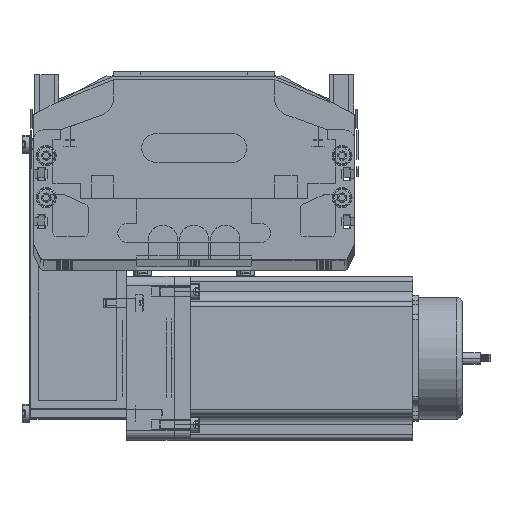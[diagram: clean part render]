
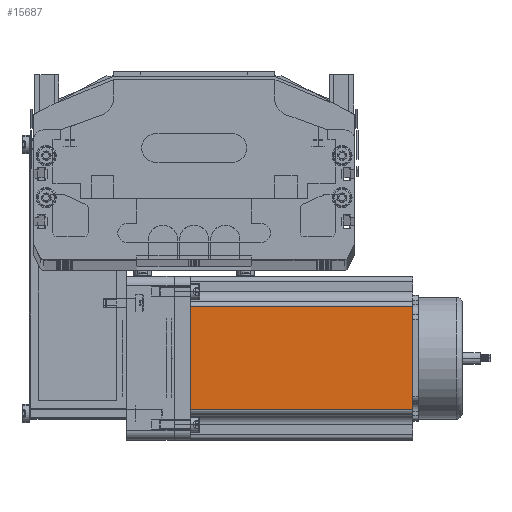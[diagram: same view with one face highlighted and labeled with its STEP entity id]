
A CAD part, top view. The second image highlights one B-rep face of the part: STEP entity #15687.
In plain terms, the highlighted planar face has unit normal (0, 0, 1) as drawn and (0, -1, 0) by its records, which use the part's own axes.
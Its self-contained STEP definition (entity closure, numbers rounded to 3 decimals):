
#15411 = ORIENTED_EDGE ( 'NONE', *, *, #15412, .T. ) ;
#15412 = EDGE_CURVE ( 'NONE', #15732, #16062, #56588, .T. ) ;
#15414 = EDGE_CURVE ( 'NONE', #15732, #15727, #56960, .T. ) ;
#15544 = EDGE_LOOP ( 'NONE', ( #16006, #15689, #16063, #15411 ) ) ;
#15687 = ADVANCED_FACE ( 'NONE', ( #57787 ), #57635, .F. ) ;
#15689 = ORIENTED_EDGE ( 'NONE', *, *, #15717, .T. ) ;
#15717 = EDGE_CURVE ( 'NONE', #16011, #15727, #58073, .T. ) ;
#15725 = EDGE_CURVE ( 'NONE', #16062, #16011, #57893, .T. ) ;
#15727 = VERTEX_POINT ( 'NONE', #58094 ) ;
#15732 = VERTEX_POINT ( 'NONE', #57986 ) ;
#16006 = ORIENTED_EDGE ( 'NONE', *, *, #15725, .T. ) ;
#16011 = VERTEX_POINT ( 'NONE', #58436 ) ;
#16062 = VERTEX_POINT ( 'NONE', #58844 ) ;
#16063 = ORIENTED_EDGE ( 'NONE', *, *, #15414, .F. ) ;
#56419 = DIRECTION ( 'NONE',  ( 0., 0., -1. ) ) ;
#56420 = VECTOR ( 'NONE', #56419, 1000. ) ;
#56586 = CARTESIAN_POINT ( 'NONE',  ( 16.16, 0., 116.5 ) ) ;
#56588 = LINE ( 'NONE', #56586, #56420 ) ;
#56888 = DIRECTION ( 'NONE',  ( 1., 0., 0. ) ) ;
#56889 = VECTOR ( 'NONE', #56888, 1000. ) ;
#56890 = CARTESIAN_POINT ( 'NONE',  ( 0., 0., 116.5 ) ) ;
#56960 = LINE ( 'NONE', #56890, #56889 ) ;
#57580 = AXIS2_PLACEMENT_3D ( 'NONE', #57633, #57625, #57624 ) ;
#57624 = DIRECTION ( 'NONE',  ( 0., 0., 1. ) ) ;
#57625 = DIRECTION ( 'NONE',  ( 0., 1., 0. ) ) ;
#57633 = CARTESIAN_POINT ( 'NONE',  ( 0., 0., 116.5 ) ) ;
#57635 = PLANE ( 'NONE',  #57580 ) ;
#57787 = FACE_OUTER_BOUND ( 'NONE', #15544, .T. ) ;
#57893 = LINE ( 'NONE', #58064, #57937 ) ;
#57903 = CARTESIAN_POINT ( 'NONE',  ( 69.74, 0., 116.5 ) ) ;
#57905 = DIRECTION ( 'NONE',  ( 0., 0., 1. ) ) ;
#57907 = VECTOR ( 'NONE', #57905, 1000. ) ;
#57937 = VECTOR ( 'NONE', #58063, 1000. ) ;
#57986 = CARTESIAN_POINT ( 'NONE',  ( 16.16, 0., 116.5 ) ) ;
#58063 = DIRECTION ( 'NONE',  ( 1., 0., 0. ) ) ;
#58064 = CARTESIAN_POINT ( 'NONE',  ( 0., 0., 0. ) ) ;
#58073 = LINE ( 'NONE', #57903, #57907 ) ;
#58094 = CARTESIAN_POINT ( 'NONE',  ( 69.74, 0., 116.5 ) ) ;
#58436 = CARTESIAN_POINT ( 'NONE',  ( 69.74, 0., 0. ) ) ;
#58844 = CARTESIAN_POINT ( 'NONE',  ( 16.16, 0., 0. ) ) ;
